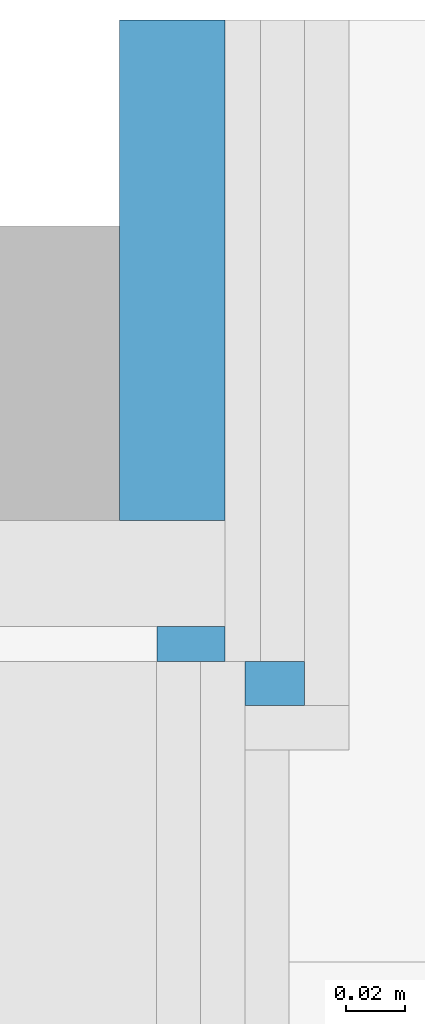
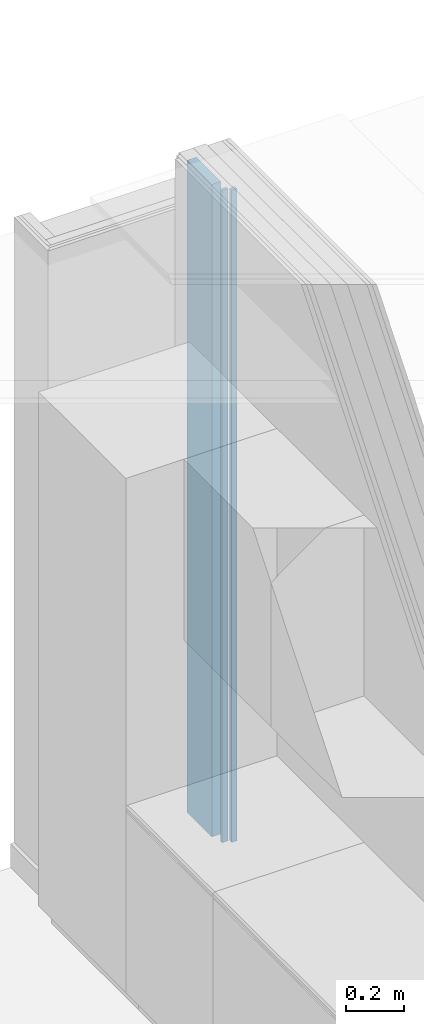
# One storey, part 18 of 65: 3 building element parts, 2 elements without a shape of their own.
"""IFC2X3 building model written with IfcOpenShell, lengths in metres."""

from ifc_helpers import new_model, entity, si_unit, converted_unit, derived_unit, money_unit, direction, frame, frame_2d, origin_with_axes, place, context, subcontext, project, spatial, rectangle, extrude, material, type_object, element, aggregate, save


model = new_model("IFC2X3")

# Units and contexts
model_context = context("Model", 3, precision=1e-05, world=origin_with_axes(), true_north=direction((0.0, 1.0)))
body_context = subcontext(model_context, "Body", "Model", "MODEL_VIEW", scale=1.0)
ifc_project = project(units=[si_unit("LENGTHUNIT", "METRE"), si_unit("AREAUNIT", "SQUARE_METRE"), si_unit("VOLUMEUNIT", "CUBIC_METRE"), si_unit("ABSORBEDDOSEUNIT", "GRAY"), si_unit("AMOUNTOFSUBSTANCEUNIT", "MOLE"), si_unit("DOSEEQUIVALENTUNIT", "SIEVERT"), si_unit("ELECTRICCAPACITANCEUNIT", "FARAD"), si_unit("ELECTRICCHARGEUNIT", "COULOMB"), si_unit("ELECTRICCONDUCTANCEUNIT", "SIEMENS"), si_unit("ELECTRICCURRENTUNIT", "AMPERE"), si_unit("ELECTRICRESISTANCEUNIT", "OHM"), si_unit("ELECTRICVOLTAGEUNIT", "VOLT"), si_unit("ENERGYUNIT", "JOULE"), si_unit("FORCEUNIT", "NEWTON"), si_unit("FREQUENCYUNIT", "HERTZ"), si_unit("ILLUMINANCEUNIT", "LUX"), si_unit("INDUCTANCEUNIT", "HENRY"), si_unit("LUMINOUSFLUXUNIT", "LUMEN"), si_unit("LUMINOUSINTENSITYUNIT", "CANDELA"), si_unit("MAGNETICFLUXDENSITYUNIT", "TESLA"), si_unit("MAGNETICFLUXUNIT", "WEBER"), si_unit("MASSUNIT", "GRAM"), converted_unit("PLANEANGLEUNIT", "degree", entity("IfcReal", 0.0174532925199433), si_unit("PLANEANGLEUNIT", "RADIAN"), dimensions=[0, 0, 0, 0, 0, 0, 0]), si_unit("POWERUNIT", "WATT"), si_unit("PRESSUREUNIT", "PASCAL"), si_unit("RADIOACTIVITYUNIT", "BECQUEREL"), si_unit("SOLIDANGLEUNIT", "STERADIAN"), si_unit("THERMODYNAMICTEMPERATUREUNIT", "KELVIN"), si_unit("TIMEUNIT", "SECOND"), derived_unit("ACCELERATIONUNIT", [(si_unit("LENGTHUNIT", "METRE"), 1), (si_unit("TIMEUNIT", "SECOND"), -2)]), derived_unit("ANGULARVELOCITYUNIT", [(converted_unit("PLANEANGLEUNIT", "degree", entity("IfcReal", 0.0174532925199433), si_unit("PLANEANGLEUNIT", "RADIAN"), dimensions=[0, 0, 0, 0, 0, 0, 0]), 1), (si_unit("TIMEUNIT", "SECOND"), -1)]), derived_unit("CURVATUREUNIT", [(converted_unit("PLANEANGLEUNIT", "degree", entity("IfcReal", 0.0174532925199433), si_unit("PLANEANGLEUNIT", "RADIAN"), dimensions=[0, 0, 0, 0, 0, 0, 0]), 1), (si_unit("LENGTHUNIT", "METRE"), -1)]), derived_unit("DYNAMICVISCOSITYUNIT", [(si_unit("PRESSUREUNIT", "PASCAL"), 1), (si_unit("TIMEUNIT", "SECOND"), 1)]), derived_unit("HEATFLUXDENSITYUNIT", [(si_unit("POWERUNIT", "WATT"), 1), (si_unit("LENGTHUNIT", "METRE"), -2)]), derived_unit("HEATINGVALUEUNIT", [(si_unit("ENERGYUNIT", "JOULE"), 1), (si_unit("MASSUNIT", "GRAM"), -1)]), derived_unit("INTEGERCOUNTRATEUNIT", [(si_unit("TIMEUNIT", "SECOND"), -1)]), derived_unit("IONCONCENTRATIONUNIT", [(si_unit("MASSUNIT", "GRAM"), 1), (si_unit("VOLUMEUNIT", "CUBIC_METRE"), -1)]), derived_unit("ISOTHERMALMOISTURECAPACITYUNIT", [(si_unit("VOLUMEUNIT", "CUBIC_METRE"), 1), (si_unit("MASSUNIT", "GRAM"), -1)]), derived_unit("KINEMATICVISCOSITYUNIT", [(si_unit("AREAUNIT", "SQUARE_METRE"), 1), (si_unit("TIMEUNIT", "SECOND"), -1)]), derived_unit("LINEARFORCEUNIT", [(si_unit("FORCEUNIT", "NEWTON"), 1), (si_unit("LENGTHUNIT", "METRE"), -1)]), derived_unit("LINEARMOMENTUNIT", [(si_unit("FORCEUNIT", "NEWTON"), 1), (si_unit("LENGTHUNIT", "METRE"), -1)]), derived_unit("LINEARSTIFFNESSUNIT", [(si_unit("FORCEUNIT", "NEWTON"), 1), (si_unit("LENGTHUNIT", "METRE"), -1)]), derived_unit("LINEARVELOCITYUNIT", [(si_unit("LENGTHUNIT", "METRE"), 1), (si_unit("TIMEUNIT", "SECOND"), -1)]), derived_unit("LUMINOUSINTENSITYDISTRIBUTIONUNIT", [(si_unit("LUMINOUSINTENSITYUNIT", "CANDELA"), 1), (si_unit("LUMINOUSFLUXUNIT", "LUMEN"), -1)]), derived_unit("MASSDENSITYUNIT", [(si_unit("MASSUNIT", "GRAM"), 1), (si_unit("VOLUMEUNIT", "CUBIC_METRE"), -1)]), derived_unit("MASSFLOWRATEUNIT", [(si_unit("MASSUNIT", "GRAM"), 1), (si_unit("TIMEUNIT", "SECOND"), -1)]), derived_unit("MASSPERLENGTHUNIT", [(si_unit("MASSUNIT", "GRAM"), 1), (si_unit("LENGTHUNIT", "METRE"), -1)]), derived_unit("MODULUSOFELASTICITYUNIT", [(si_unit("FORCEUNIT", "NEWTON"), 1), (si_unit("AREAUNIT", "SQUARE_METRE"), -1)]), derived_unit("MODULUSOFLINEARSUBGRADEREACTIONUNIT", [(si_unit("FORCEUNIT", "NEWTON"), 1), (si_unit("LENGTHUNIT", "METRE"), -2)]), derived_unit("MODULUSOFROTATIONALSUBGRADEREACTIONUNIT", [(si_unit("FORCEUNIT", "NEWTON"), 1), (si_unit("LENGTHUNIT", "METRE"), 1)]), derived_unit("MODULUSOFSUBGRADEREACTIONUNIT", [(si_unit("FORCEUNIT", "NEWTON"), 1), (si_unit("VOLUMEUNIT", "CUBIC_METRE"), -1)]), derived_unit("MOISTUREDIFFUSIVITYUNIT", [(si_unit("VOLUMEUNIT", "CUBIC_METRE"), 1), (si_unit("TIMEUNIT", "SECOND"), -1)]), derived_unit("MOLECULARWEIGHTUNIT", [(si_unit("MASSUNIT", "GRAM"), 1), (si_unit("AMOUNTOFSUBSTANCEUNIT", "MOLE"), -1)]), derived_unit("PLANARFORCEUNIT", [(si_unit("FORCEUNIT", "NEWTON"), 1), (si_unit("LENGTHUNIT", "METRE"), -2)]), derived_unit("ROTATIONALFREQUENCYUNIT", [(si_unit("TIMEUNIT", "SECOND"), -1)]), derived_unit("ROTATIONALMASSUNIT", [(si_unit("MASSUNIT", "GRAM"), 1), (si_unit("LENGTHUNIT", "METRE"), 2)]), derived_unit("ROTATIONALSTIFFNESSUNIT", [(si_unit("FORCEUNIT", "NEWTON"), 1), (si_unit("LENGTHUNIT", "METRE"), 1), (converted_unit("PLANEANGLEUNIT", "degree", entity("IfcReal", 0.0174532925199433), si_unit("PLANEANGLEUNIT", "RADIAN"), dimensions=[0, 0, 0, 0, 0, 0, 0]), -1)]), derived_unit("SECTIONAREAINTEGRALUNIT", [(si_unit("LENGTHUNIT", "METRE"), 5)]), derived_unit("SECTIONMODULUSUNIT", [(si_unit("LENGTHUNIT", "METRE"), 3)]), derived_unit("SHEARMODULUSUNIT", [(si_unit("FORCEUNIT", "NEWTON"), 1), (si_unit("AREAUNIT", "SQUARE_METRE"), -1)]), derived_unit("SOUNDPOWERUNIT", [(si_unit("ENERGYUNIT", "JOULE"), 1), (si_unit("TIMEUNIT", "SECOND"), -1)]), derived_unit("SPECIFICHEATCAPACITYUNIT", [(si_unit("FORCEUNIT", "NEWTON"), 1), (si_unit("MASSUNIT", "GRAM"), -1), (si_unit("THERMODYNAMICTEMPERATUREUNIT", "KELVIN"), -1)]), derived_unit("TEMPERATUREGRADIENTUNIT", [(si_unit("THERMODYNAMICTEMPERATUREUNIT", "KELVIN"), 1), (si_unit("LENGTHUNIT", "METRE"), -1)]), derived_unit("THERMALADMITTANCEUNIT", [(si_unit("POWERUNIT", "WATT"), 1), (si_unit("AREAUNIT", "SQUARE_METRE"), -1), (si_unit("THERMODYNAMICTEMPERATUREUNIT", "KELVIN"), -1)]), derived_unit("THERMALCONDUCTANCEUNIT", [(si_unit("POWERUNIT", "WATT"), 1), (si_unit("LENGTHUNIT", "METRE"), -1), (si_unit("THERMODYNAMICTEMPERATUREUNIT", "KELVIN"), -1)]), derived_unit("THERMALEXPANSIONCOEFFICIENTUNIT", [(si_unit("THERMODYNAMICTEMPERATUREUNIT", "KELVIN"), -1)]), derived_unit("THERMALRESISTANCEUNIT", [(si_unit("AREAUNIT", "SQUARE_METRE"), 1), (si_unit("POWERUNIT", "WATT"), -1)]), derived_unit("THERMALTRANSMITTANCEUNIT", [(si_unit("POWERUNIT", "WATT"), 1), (si_unit("AREAUNIT", "SQUARE_METRE"), -1), (si_unit("THERMODYNAMICTEMPERATUREUNIT", "KELVIN"), -1)]), derived_unit("TORQUEUNIT", [(si_unit("FORCEUNIT", "NEWTON"), 1), (si_unit("LENGTHUNIT", "METRE"), 1)]), derived_unit("VAPORPERMEABILITYUNIT", [(si_unit("MASSUNIT", "GRAM"), 1), (si_unit("TIMEUNIT", "SECOND"), -1)]), derived_unit("VOLUMETRICFLOWRATEUNIT", [(si_unit("VOLUMEUNIT", "CUBIC_METRE"), 1), (si_unit("TIMEUNIT", "SECOND"), -1)]), derived_unit("WARPINGCONSTANTUNIT", [(si_unit("LENGTHUNIT", "METRE"), 6)]), derived_unit("WARPINGMOMENTUNIT", [(si_unit("FORCEUNIT", "NEWTON"), 1), (si_unit("LENGTHUNIT", "METRE"), 2)]), money_unit("GBP")], contexts=[model_context])

# Site, building, storey
site_placement = place(None, origin_with_axes())
site = spatial("IfcSite", under=ifc_project, at=site_placement, Name="Site", CompositionType="ELEMENT")
building_placement = place(site_placement, origin_with_axes())
building = spatial("IfcBuilding", under=site, at=building_placement, Name="Building01", CompositionType="ELEMENT")
storey_placement = place(building_placement, frame((0.0, 0.0, 8.64), z_axis=(0.0, 0.0, 1.0), x_axis=(1.0, 0.0, 0.0)))
storey = spatial("IfcBuildingStorey", under=building, at=storey_placement, Name="2F", CompositionType="ELEMENT", Elevation=8.64)

# Wall, building element part
wall_type = type_object("IfcWallType", Name="SHE_A-Walls_Type06f_ExternalWallInsulation_48+15mm", PredefinedType="NOTDEFINED")
wall_1_placement = place(storey_placement, frame((7.247, 14.63, 0.0), z_axis=(0.0, 0.0, 1.0), x_axis=(0.0, 1.0, 0.0)))
wall_1 = element("IfcWall", 1, at=wall_1_placement, inside=storey, type_object=wall_type, Name="6F", ObjectType="SHE_A-Walls_Type06f_ExternalWallInsulation_48+15mm")
ifc_material_1 = material(Name="A_BSUK_Insulation")
building_element_part_1_placement = place(wall_1_placement, origin_with_axes())
building_element_part_1 = element("IfcBuildingElementPart", 2, at=building_element_part_1_placement, material=ifc_material_1, Name="4", context=body_context, shape_type="SweptSolid", body=[
    extrude(rectangle(XDim=0.17, YDim=0.036, at=frame_2d((0.085, -0.018), x_axis=(-1.0, 0.0))), origin_with_axes(), (0.0, 0.0, 1.0), 2.74),
])
aggregate(wall_1, [building_element_part_1])

# Wall, building element parts
wall_2_placement = place(storey_placement, frame((7.283, 14.63, 0.0), z_axis=(0.0, 0.0, 1.0), x_axis=(-1.0, 0.0, 0.0)))
wall_2 = element("IfcWall", 3, at=wall_2_placement, inside=storey, type_object=wall_type, Name="6F", ObjectType="SHE_A-Walls_Type06f_ExternalWallInsulation_48+15mm")
ifc_material_2 = material(Name="A_BSUK_WallInternal_Finishes_Plasterboard")
placement = place(wall_2_placement, origin_with_axes())
building_element_part_2 = element("IfcBuildingElementPart", 4, at=placement, material=ifc_material_2, Name="2", context=body_context, shape_type="SweptSolid", body=[
    extrude(rectangle(XDim=0.012, YDim=0.023252, at=frame_2d((0.011626, 0.042), x_axis=(0.0, -1.0))), origin_with_axes(), (0.0, 0.0, 1.0), 2.74),
])
building_element_part_3 = element("IfcBuildingElementPart", 5, at=placement, material=ifc_material_2, Name="4", context=body_context, shape_type="SweptSolid", body=[
    extrude(rectangle(XDim=0.020331, YDim=0.015, at=frame_2d((-0.016834, 0.0555), x_axis=(-1.0, 0.0))), origin_with_axes(), (0.0, 0.0, 1.0), 2.74),
])
aggregate(wall_2, [building_element_part_2, building_element_part_3])

save(model, "model.ifc")
